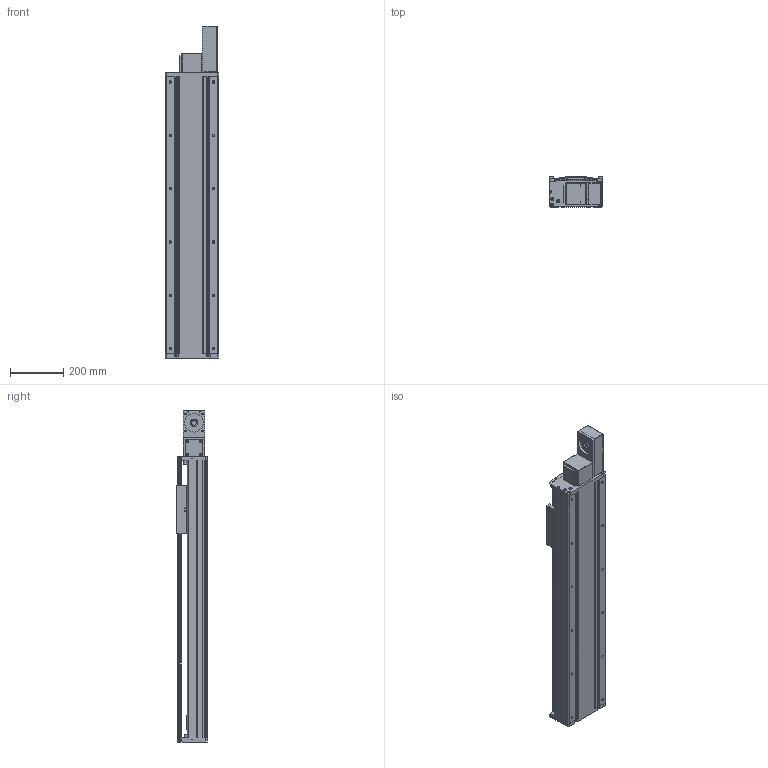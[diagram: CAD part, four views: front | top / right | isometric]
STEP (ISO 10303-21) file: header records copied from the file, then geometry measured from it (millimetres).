
FILE_DESCRIPTION(/* description */ (''),/* implementation_level */ '2;1');
FILE_NAME(/* name */ 'TKB200-FL-800_asm1.stp',/* time_stamp */ '2016-05-18T11:03:28+08:00',/* author */ (''),/* organization */ (''),/* preprocessor_version */ 'ST-DEVELOPER v15',/* originating_system */ 'SIEMENS PLM Software NX 8.5',/* authorisation */ '');
FILE_SCHEMA (('AUTOMOTIVE_DESIGN { 1 0 10303 214 3 1 1 1 }'));
Length unit declared in the file: millimetre
Products named in the file (3): 200-2; 200-1; TKB200-FL-800_asm1
Assembly tree (2 placements, depth 2):
  TKB200-FL-800_asm1
    200-1
    200-2
Bounding box: 200 x 115 x 1245 mm (x, y, z)
Volume: 7447179.3 mm3; surface area: 2290264.6 mm2
Topology: 2 solids, 3 shells, 1008 faces, 2834 edges, 1822 vertices
Faces by surface type: plane 463, cylinder 459, cone 70, bspline 16
Full cylindrical faces by diameter (mm): 2.5 x2, 3.3 x16, 4.3 x4, 4.5 x8, 5 x2, 6.6 x34, 6.8 x8, 8 x6, 9 x20, 10 x4, 11 x22, 12 x16, 14 x12, 36 x1, 42 x2, 75 x1
Entity records: 34063 total; most frequent: CARTESIAN_POINT 8855, DIRECTION 5178, ORIENTED_EDGE 5028, EDGE_CURVE 2514, AXIS2_PLACEMENT_3D 1883, VERTEX_POINT 1732, LINE 1412, VECTOR 1412
